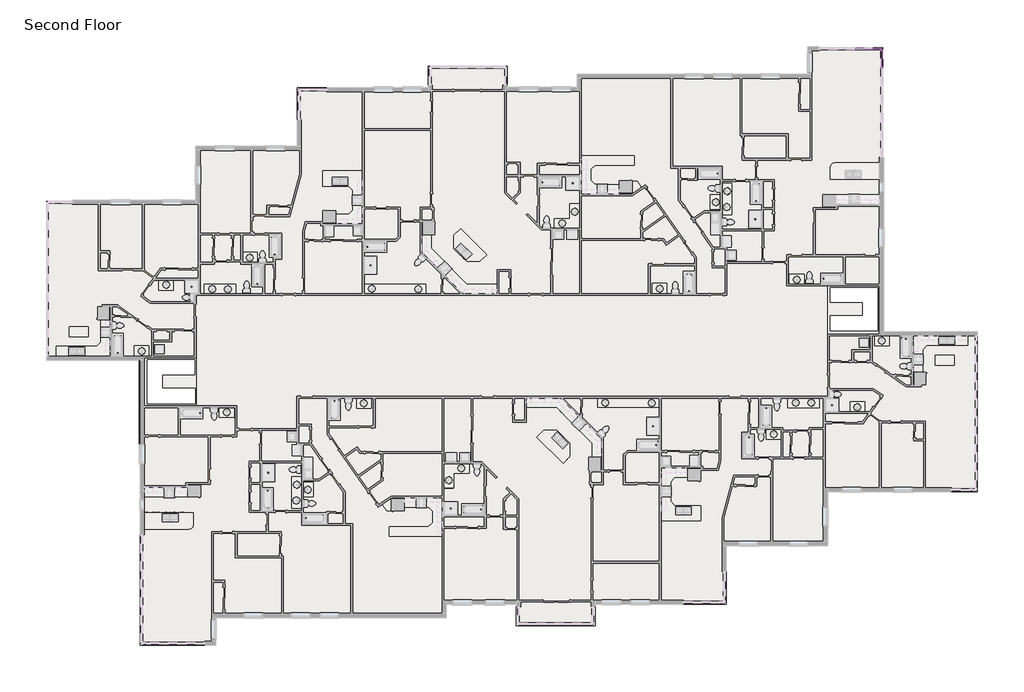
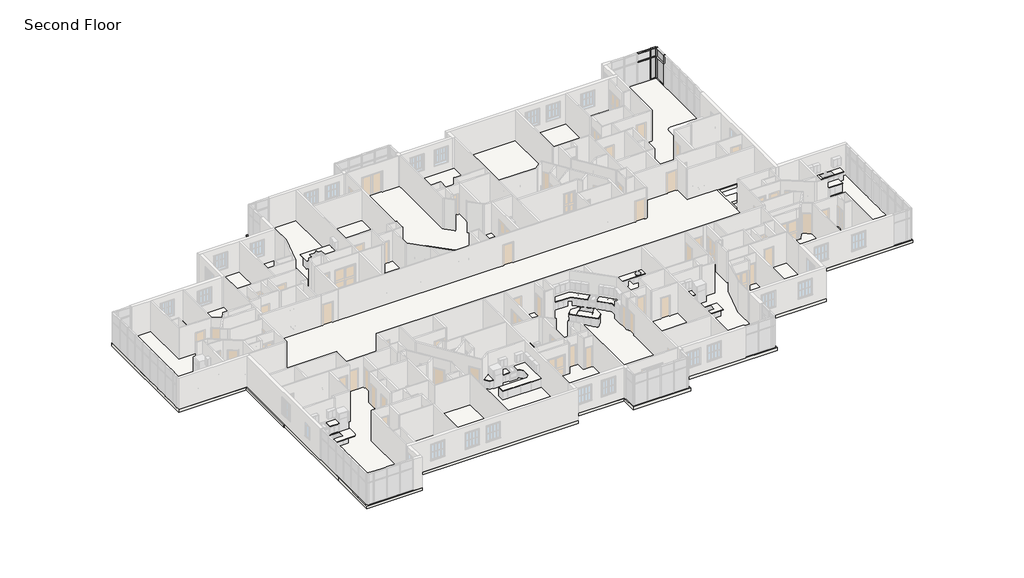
# One storey, part 13 of 17: 39 slabs, 13 members, 4 plates, 1 covering.
"""IFC4 building model written with IfcOpenShell, lengths in millimetres."""

from ifc_helpers import new_model, si_unit, point, frame, frame_2d, origin, place, context, project, spatial, polyline, circle_curve, trimmed, segment, composite_curve, outline, extrude, transform, mapped, element, save
from components import rectangular_mullion_rectangular_mullion_1_c1bf3533, rectangular_mullion_rectangular_mullion_1_fa3625a1, rectangular_mullion_rectangular_mullion_1_a50b3cda, rectangular_mullion_rectangular_mullion_1_5cd4c5ac, rectangular_mullion_rectangular_mullion_1_7cbf0b94, rectangular_mullion_rectangular_mullion_1_1da01dff, rectangular_mullion_rectangular_mullion_1_6186cc23, rectangular_mullion_rectangular_mullion_1_049a2e78, system_panel_glazed_53e6f9fb, system_panel_glazed_0e039939, system_panel_glazed_cb820e14, system_panel_glazed_5b288161

model = new_model("IFC4")

# Units and contexts
model_context = context("Model", 3, world=origin())
ifc_project = project(units=[si_unit("LENGTHUNIT", "METRE", prefix="MILLI")], contexts=[model_context])

# Site, building, storey
site = spatial("IfcSite", under=ifc_project)
building = spatial("IfcBuilding", under=site)
storey = spatial("IfcBuildingStorey", under=building, Name="Second Floor", Elevation=3048.0)

# Covering
placement = place(None, origin())
element("IfcCovering", 1, ObjectType="GWB on Furring", at=placement, inside=storey, context=model_context, shape_type="SweptSolid", body=[
    extrude(outline(polyline([(612.3831159, 8571.3427849), (10823.1831159, 8571.3427849), (10823.1831159, 12228.9427849), (17678.8246608, 12228.9427849), (17678.8246608, 16206.4791823), (26561.7198571, 16206.4791823), (26561.7198571, 17658.2365339), (31636.4923474, 17658.2365339), (31636.4923474, 16286.6365339), (36665.6923474, 16286.6365339), (36665.6923474, 17048.6365339), (52298.3534229, 17048.6365339), (52298.3534229, 18983.9169819), (57200.5534229, 18983.9169819), (57200.5534229, -370.8512558), (63577.7712704, -370.8512558), (63577.7712704, -10909.4129097), (53368.0217107, -10909.4129097), (53368.0217107, -14589.2379097), (46452.5922255, -14589.2379097), (46452.5922255, -18527.8691587), (37601.4470292, -18527.8691587), (37601.4470292, -20097.9066587), (32579.8565643, -20097.9066587), (32579.8565643, -18477.0691587), (27605.5115862, -18477.0691587), (27605.5115862, -19494.2615506), (11891.8009633, -19494.2615506), (11891.8009633, -21333.0996067), (7087.7956159, -21333.0996067), (7087.7956159, -1965.631369), (612.3831159, -1965.631369), (612.3831159, 8571.3427849)]), holes=[polyline([(7156.0581159, -5294.5871067), (10683.583999, -5294.5871067), (10683.583999, -1902.131369), (7156.0581159, -1902.131369), (7156.0581159, -5294.5871067)]), polyline([(53506.5703872, 2888.2544819), (53506.5703872, -370.8512558), (57019.8087704, -370.8512558), (57019.8087704, 2888.2544819), (53506.5703872, 2888.2544819)])]), frame((0.0, 0.0, 3048.0), z_axis=(0.0, 0.0, 1.0), x_axis=(1.0, 0.0, 0.0)), (0.0, 0.0, 1.0), 31.75),
])

# Members
rectangular_mullion_rectangular_mullion_1_shape = rectangular_mullion_rectangular_mullion_1_c1bf3533(model_context)
element("IfcMember", 2, ObjectType="Rectangular Mullion : Rectangular Mullion 1", at=placement, inside=storey, context=model_context, shape_type="MappedRepresentation", body=[
    mapped(rectangular_mullion_rectangular_mullion_1_shape, transform((57092.6034229, 18983.9169819, 6096.0), x_axis=(0.0, 0.0, 1.0), y_axis=(0.0, -1.0, 0.0), z_axis=(1.0, 0.0, 0.0))),
])
rectangular_mullion_rectangular_mullion_1_2_shape = rectangular_mullion_rectangular_mullion_1_fa3625a1(model_context)
element("IfcMember", 3, ObjectType="Rectangular Mullion : Rectangular Mullion 1", at=placement, inside=storey, context=model_context, shape_type="MappedRepresentation", body=[
    mapped(rectangular_mullion_rectangular_mullion_1_2_shape, transform((56571.9034233, 18983.9169819, 6096.0), x_axis=(0.0, 0.0, 1.0), y_axis=(0.0, -1.0, 0.0), z_axis=(1.0, 0.0, 0.0))),
])
element("IfcMember", 4, ObjectType="Rectangular Mullion : Rectangular Mullion 1", at=placement, inside=storey, context=model_context, shape_type="MappedRepresentation", body=[
    mapped(rectangular_mullion_rectangular_mullion_1_2_shape, transform((57175.1534229, 18875.9669819, 3048.0), x_axis=(0.0, 0.0, -1.0), y_axis=(-1.0, 0.0, 0.0), z_axis=(0.0, 1.0, 0.0))),
])
element("IfcMember", 5, ObjectType="Rectangular Mullion : Rectangular Mullion 1", at=placement, inside=storey, context=model_context, shape_type="MappedRepresentation", body=[
    mapped(rectangular_mullion_rectangular_mullion_1_shape, transform((56635.4034233, 18983.9169819, 3048.0), x_axis=(0.0, 0.0, -1.0), y_axis=(0.0, -1.0, 0.0), z_axis=(-1.0, 0.0, 0.0))),
])
rectangular_mullion_rectangular_mullion_1_3_shape = rectangular_mullion_rectangular_mullion_1_a50b3cda(model_context)
element("IfcMember", 6, ObjectType="Rectangular Mullion : Rectangular Mullion 1", at=placement, inside=storey, context=model_context, shape_type="MappedRepresentation", body=[
    mapped(rectangular_mullion_rectangular_mullion_1_3_shape, transform((57156.1034229, 18983.9169819, 3048.0), x_axis=(1.0, 0.0, 0.0), y_axis=(0.0, -1.0, 0.0), z_axis=(0.0, 0.0, -1.0))),
])
rectangular_mullion_rectangular_mullion_1_4_shape = rectangular_mullion_rectangular_mullion_1_5cd4c5ac(model_context)
element("IfcMember", 7, ObjectType="Rectangular Mullion : Rectangular Mullion 1", at=placement, inside=storey, context=model_context, shape_type="MappedRepresentation", body=[
    mapped(rectangular_mullion_rectangular_mullion_1_4_shape, transform((57156.1034229, 18983.9169819, 5213.35), x_axis=(1.0, 0.0, 0.0), y_axis=(0.0, -1.0, 0.0), z_axis=(0.0, 0.0, -1.0))),
])
element("IfcMember", 8, ObjectType="Rectangular Mullion : Rectangular Mullion 1", at=placement, inside=storey, context=model_context, shape_type="MappedRepresentation", body=[
    mapped(rectangular_mullion_rectangular_mullion_1_4_shape, transform((57175.1534229, 18939.4669819, 6096.0), x_axis=(0.0, 1.0, 0.0), y_axis=(-1.0, 0.0, 0.0), z_axis=(0.0, 0.0, 1.0))),
])
element("IfcMember", 9, ObjectType="Rectangular Mullion : Rectangular Mullion 1", at=placement, inside=storey, context=model_context, shape_type="MappedRepresentation", body=[
    mapped(rectangular_mullion_rectangular_mullion_1_3_shape, transform((57175.1534229, 18939.4669819, 5213.35), x_axis=(0.0, 1.0, 0.0), y_axis=(-1.0, 0.0, 0.0), z_axis=(0.0, 0.0, 1.0))),
])
rectangular_mullion_rectangular_mullion_1_5_shape = rectangular_mullion_rectangular_mullion_1_7cbf0b94(model_context)
element("IfcMember", 10, ObjectType="Rectangular Mullion : Rectangular Mullion 1", at=placement, inside=storey, context=model_context, shape_type="MappedRepresentation", body=[
    mapped(rectangular_mullion_rectangular_mullion_1_5_shape, transform((56571.9034233, 18983.9169819, 5213.35), x_axis=(0.0, 0.0, 1.0), y_axis=(0.0, -1.0, 0.0), z_axis=(1.0, 0.0, 0.0))),
])
rectangular_mullion_rectangular_mullion_1_6_shape = rectangular_mullion_rectangular_mullion_1_1da01dff(model_context)
element("IfcMember", 11, ObjectType="Rectangular Mullion : Rectangular Mullion 1", at=placement, inside=storey, context=model_context, shape_type="MappedRepresentation", body=[
    mapped(rectangular_mullion_rectangular_mullion_1_6_shape, transform((57092.6034229, 18983.9169819, 5213.35), x_axis=(0.0, 0.0, 1.0), y_axis=(0.0, -1.0, 0.0), z_axis=(1.0, 0.0, 0.0))),
])
rectangular_mullion_rectangular_mullion_1_7_shape = rectangular_mullion_rectangular_mullion_1_6186cc23(model_context)
element("IfcMember", 12, ObjectType="Rectangular Mullion : Rectangular Mullion 1", at=placement, inside=storey, context=model_context, shape_type="MappedRepresentation", body=[
    mapped(rectangular_mullion_rectangular_mullion_1_7_shape, transform((56603.6534233, 18983.9169819, 3048.0), x_axis=(1.0, 0.0, 0.0), y_axis=(0.0, -1.0, 0.0), z_axis=(0.0, 0.0, -1.0))),
])
rectangular_mullion_rectangular_mullion_1_8_shape = rectangular_mullion_rectangular_mullion_1_049a2e78(model_context)
element("IfcMember", 13, ObjectType="Rectangular Mullion : Rectangular Mullion 1", at=placement, inside=storey, context=model_context, shape_type="MappedRepresentation", body=[
    mapped(rectangular_mullion_rectangular_mullion_1_8_shape, transform((56603.6534233, 18983.9169819, 5213.35), x_axis=(1.0, 0.0, 0.0), y_axis=(0.0, -1.0, 0.0), z_axis=(0.0, 0.0, -1.0))),
])
element("IfcMember", 14, ObjectType="Rectangular Mullion : Rectangular Mullion 1", at=placement, inside=storey, context=model_context, shape_type="MappedRepresentation", body=[
    mapped(rectangular_mullion_rectangular_mullion_1_8_shape, transform((57175.1534229, 17688.5169816, 5213.35), x_axis=(0.0, -1.0, 0.0), y_axis=(-1.0, 0.0, 0.0), z_axis=(0.0, 0.0, -1.0))),
])

# Plates
system_panel_glazed_shape = system_panel_glazed_53e6f9fb(model_context)
element("IfcPlate", 15, ObjectType="System Panel : Glazed", at=placement, inside=storey, context=model_context, shape_type="MappedRepresentation", body=[
    mapped(system_panel_glazed_shape, transform((57175.1534229, 18298.1169818, 3111.5), x_axis=(0.0, -1.0, 0.0), y_axis=(1.0, 0.0, 0.0), z_axis=(0.0, 0.0, 1.0))),
])
system_panel_glazed_2_shape = system_panel_glazed_0e039939(model_context)
element("IfcPlate", 16, ObjectType="System Panel : Glazed", at=placement, inside=storey, context=model_context, shape_type="MappedRepresentation", body=[
    mapped(system_panel_glazed_2_shape, transform((56864.0034231, 18983.9169819, 3111.5), x_axis=(1.0, 0.0, 0.0), y_axis=(0.0, 1.0, 0.0), z_axis=(0.0, 0.0, 1.0))),
])
system_panel_glazed_3_shape = system_panel_glazed_cb820e14(model_context)
element("IfcPlate", 17, ObjectType="System Panel : Glazed", at=placement, inside=storey, context=model_context, shape_type="MappedRepresentation", body=[
    mapped(system_panel_glazed_3_shape, transform((57175.1534229, 18298.1169818, 5245.1), x_axis=(0.0, -1.0, 0.0), y_axis=(1.0, 0.0, 0.0), z_axis=(0.0, 0.0, 1.0))),
])
system_panel_glazed_4_shape = system_panel_glazed_5b288161(model_context)
element("IfcPlate", 18, ObjectType="System Panel : Glazed", at=placement, inside=storey, context=model_context, shape_type="MappedRepresentation", body=[
    mapped(system_panel_glazed_4_shape, transform((56864.0034231, 18983.9169819, 5245.1), x_axis=(1.0, 0.0, 0.0), y_axis=(0.0, 1.0, 0.0), z_axis=(0.0, 0.0, 1.0))),
])

# Slabs
element("IfcSlab", 19, ObjectType="Marble", at=placement, inside=storey, context=model_context, shape_type="SweptSolid", body=[
    extrude(outline(polyline([(50926.9744057, 3675.6544819), (51917.5744057, 3675.6544819), (51917.5744057, 3021.6044819), (50926.9744057, 3021.6044819), (50926.9744057, 3675.6544819)]), holes=[composite_curve([segment(trimmed(circle_curve(frame_2d((51422.2744057, 3320.0544819)), 203.2), [point((51219.0744057, 3320.0544819))], [point((51625.4744057, 3320.0544819))], True, "CARTESIAN"), True, "CONTINUOUS"), segment(trimmed(circle_curve(frame_2d((51422.2744057, 3320.0544819)), 203.2), [point((51625.4744057, 3320.0544819))], [point((51219.0744057, 3320.0544819))], True, "CARTESIAN"), True, "CONTINUOUS")], self_intersect=False)]), frame((0.0, 0.0, 3784.6), z_axis=(0.0, 0.0, 1.0), x_axis=(1.0, 0.0, 0.0)), (0.0, 0.0, 1.0), 38.1),
])
element("IfcSlab", 20, ObjectType="Marble", at=placement, inside=storey, context=model_context, shape_type="SweptSolid", body=[
    extrude(outline(polyline([(47019.1852525, 9841.9667096), (47019.1852525, 7708.3667096), (46371.4852525, 7708.3667096), (46371.4852525, 9841.9667096), (47019.1852525, 9841.9667096)]), holes=[composite_curve([segment(trimmed(circle_curve(frame_2d((46688.9852525, 8241.7667096)), 203.2), [point((46485.7852525, 8241.7667096))], [point((46892.1852525, 8241.7667096))], True, "CARTESIAN"), True, "CONTINUOUS"), segment(trimmed(circle_curve(frame_2d((46688.9852525, 8241.7667096)), 203.2), [point((46892.1852525, 8241.7667096))], [point((46485.7852525, 8241.7667096))], True, "CARTESIAN"), True, "CONTINUOUS")], self_intersect=False), composite_curve([segment(trimmed(circle_curve(frame_2d((46688.9852525, 9308.5667096)), 203.2), [point((46485.7852525, 9308.5667096))], [point((46892.1852525, 9308.5667096))], True, "CARTESIAN"), True, "CONTINUOUS"), segment(trimmed(circle_curve(frame_2d((46688.9852525, 9308.5667096)), 203.2), [point((46892.1852525, 9308.5667096))], [point((46485.7852525, 9308.5667096))], True, "CARTESIAN"), True, "CONTINUOUS")], self_intersect=False)]), frame((0.0, 0.0, 3784.6), z_axis=(0.0, 0.0, 1.0), x_axis=(1.0, 0.0, 0.0)), (0.0, 0.0, 1.0), 38.1),
])
element("IfcSlab", 21, ObjectType="Marble", at=placement, inside=storey, context=model_context, shape_type="SweptSolid", body=[
    extrude(outline(polyline([(37464.1178001, 10049.9225466), (37730.8178001, 9783.2225466), (37857.8178001, 9783.2225466), (37857.8178001, 9119.7410099), (36816.4178001, 9119.7410099), (36816.4178001, 11733.611548), (40399.3657184, 11733.611548), (40399.3657184, 11085.911548), (37746.5993369, 11085.911548), (37464.1178001, 10803.4300112), (37464.1178001, 10049.9225466)])), frame((0.0, 0.0, 3924.3), z_axis=(0.0, 0.0, 1.0), x_axis=(1.0, 0.0, 0.0)), (0.0, 0.0, 1.0), 38.1),
    extrude(outline(polyline([(39378.9347694, 9767.4410099), (39378.9347694, 9119.7410099), (38616.9347694, 9119.7410099), (38616.9347694, 9767.4410099), (39378.9347694, 9767.4410099)])), frame((0.0, 0.0, 3924.3), z_axis=(0.0, 0.0, 1.0), x_axis=(1.0, 0.0, 0.0)), (0.0, 0.0, 1.0), 38.1),
])
element("IfcSlab", 22, ObjectType="Marble", at=placement, inside=storey, context=model_context, shape_type="SweptSolid", body=[
    extrude(outline(polyline([(41626.0511183, 3064.2091714), (42616.6511183, 3064.2091714), (42616.6511183, 2391.1091714), (41626.0511183, 2391.1091714), (41626.0511183, 3064.2091714)]), holes=[composite_curve([segment(trimmed(circle_curve(frame_2d((42121.3511183, 2708.6091714)), 203.2), [point((41918.1511183, 2708.6091714))], [point((42324.5511183, 2708.6091714))], True, "CARTESIAN"), True, "CONTINUOUS"), segment(trimmed(circle_curve(frame_2d((42121.3511183, 2708.6091714)), 203.2), [point((42324.5511183, 2708.6091714))], [point((41918.1511183, 2708.6091714))], True, "CARTESIAN"), True, "CONTINUOUS")], self_intersect=False)]), frame((0.0, 0.0, 3784.6), z_axis=(0.0, 0.0, 1.0), x_axis=(1.0, 0.0, 0.0)), (0.0, 0.0, 1.0), 38.1),
])
element("IfcSlab", 23, ObjectType="Marble", at=placement, inside=storey, context=model_context, shape_type="SweptSolid", body=[
    extrude(outline(polyline([(34989.4572348, 6808.2918202), (34989.4572348, 7449.6418202), (36024.5072348, 7449.6418202), (36024.5072348, 8459.2918202), (36704.1794441, 8459.2918202), (36702.1178001, 6806.1559423), (34989.4572348, 6808.2918202)]), holes=[composite_curve([segment(trimmed(circle_curve(frame_2d((35526.0206512, 7126.8943672)), 203.2), [point((35729.2204932, 7126.6409544))], [point((35322.8208092, 7127.14778))], True, "CARTESIAN"), True, "CONTINUOUS"), segment(trimmed(circle_curve(frame_2d((35526.0206512, 7126.8943672)), 203.2), [point((35322.8208092, 7127.14778))], [point((35729.2204932, 7126.6409544))], True, "CARTESIAN"), True, "CONTINUOUS")], self_intersect=False), composite_curve([segment(trimmed(circle_curve(frame_2d((36367.6300654, 7922.506761)), 203.2), [point((36570.8299073, 7922.2533482))], [point((36164.4302234, 7922.7601737))], True, "CARTESIAN"), True, "CONTINUOUS"), segment(trimmed(circle_curve(frame_2d((36367.6300654, 7922.506761)), 203.2), [point((36164.4302234, 7922.7601737))], [point((36570.8299073, 7922.2533482))], True, "CARTESIAN"), True, "CONTINUOUS")], self_intersect=False)]), frame((0.0, 0.0, 3784.6), z_axis=(0.0, 0.0, 1.0), x_axis=(1.0, 0.0, 0.0)), (0.0, 0.0, 1.0), 38.1),
])
element("IfcSlab", 24, ObjectType="Marble", at=placement, inside=storey, context=model_context, shape_type="SweptSolid", body=[
    extrude(outline(polyline([(13837.7035557, 5166.0591714), (14828.3035557, 5166.0591714), (14828.3035557, 4492.9591714), (13837.7035557, 4492.9591714), (13837.7035557, 5166.0591714)]), holes=[composite_curve([segment(trimmed(circle_curve(frame_2d((14333.0035557, 4810.4591714)), 203.2), [point((14129.8035557, 4810.4591714))], [point((14536.2035557, 4810.4591714))], True, "CARTESIAN"), True, "CONTINUOUS"), segment(trimmed(circle_curve(frame_2d((14333.0035557, 4810.4591714)), 203.2), [point((14536.2035557, 4810.4591714))], [point((14129.8035557, 4810.4591714))], True, "CARTESIAN"), True, "CONTINUOUS")], self_intersect=False)]), frame((0.0, 0.0, 3784.6), z_axis=(0.0, 0.0, 1.0), x_axis=(1.0, 0.0, 0.0)), (0.0, 0.0, 1.0), 38.1),
])
element("IfcSlab", 25, ObjectType="Marble", at=placement, inside=storey, context=model_context, shape_type="SweptSolid", body=[
    extrude(outline(polyline([(6504.0261708, -1173.468869), (7494.6261708, -1173.468869), (7494.6261708, -1846.568869), (6504.0261708, -1846.568869), (6504.0261708, -1173.468869)]), holes=[composite_curve([segment(trimmed(circle_curve(frame_2d((6999.3261708, -1529.068869)), 203.2), [point((6796.1261708, -1529.068869))], [point((7202.5261708, -1529.068869))], True, "CARTESIAN"), True, "CONTINUOUS"), segment(trimmed(circle_curve(frame_2d((6999.3261708, -1529.068869)), 203.2), [point((7202.5261708, -1529.068869))], [point((6796.1261708, -1529.068869))], True, "CARTESIAN"), True, "CONTINUOUS")], self_intersect=False)]), frame((0.0, 0.0, 3784.6), z_axis=(0.0, 0.0, 1.0), x_axis=(1.0, 0.0, 0.0)), (0.0, 0.0, 1.0), 38.1),
])
element("IfcSlab", 26, ObjectType="Marble", at=placement, inside=storey, context=model_context, shape_type="SweptSolid", body=[
    extrude(outline(polyline([(9152.6629179, 2616.3624849), (8162.0629179, 2616.3624849), (8162.0629179, 3289.4624849), (9152.6629179, 3289.4624849), (9152.6629179, 2616.3624849)]), holes=[composite_curve([segment(trimmed(circle_curve(frame_2d((8657.3629179, 2971.9624849)), 203.2), [point((8860.5629179, 2971.9624849))], [point((8454.1629179, 2971.9624849))], True, "CARTESIAN"), True, "CONTINUOUS"), segment(trimmed(circle_curve(frame_2d((8657.3629179, 2971.9624849)), 203.2), [point((8454.1629179, 2971.9624849))], [point((8860.5629179, 2971.9624849))], True, "CARTESIAN"), True, "CONTINUOUS")], self_intersect=False)]), frame((0.0, 0.0, 3784.6), z_axis=(0.0, 0.0, 1.0), x_axis=(1.0, 0.0, 0.0)), (0.0, 0.0, 1.0), 38.1),
])
element("IfcSlab", 27, ObjectType="Marble", at=placement, inside=storey, context=model_context, shape_type="SweptSolid", body=[
    extrude(outline(polyline([(11250.0391694, 3007.0591714), (13383.6391694, 3007.0591714), (13383.6391694, 2359.3591714), (11250.0391694, 2359.3591714), (11250.0391694, 3007.0591714)]), holes=[composite_curve([segment(trimmed(circle_curve(frame_2d((12850.2391694, 2676.8591714)), 203.2), [point((12850.2391694, 2473.6591714))], [point((12850.2391694, 2880.0591714))], True, "CARTESIAN"), True, "CONTINUOUS"), segment(trimmed(circle_curve(frame_2d((12850.2391694, 2676.8591714)), 203.2), [point((12850.2391694, 2880.0591714))], [point((12850.2391694, 2473.6591714))], True, "CARTESIAN"), True, "CONTINUOUS")], self_intersect=False), composite_curve([segment(trimmed(circle_curve(frame_2d((11783.4391694, 2676.8591714)), 203.2), [point((11783.4391694, 2473.6591714))], [point((11783.4391694, 2880.0591714))], True, "CARTESIAN"), True, "CONTINUOUS"), segment(trimmed(circle_curve(frame_2d((11783.4391694, 2676.8591714)), 203.2), [point((11783.4391694, 2880.0591714))], [point((11783.4391694, 2473.6591714))], True, "CARTESIAN"), True, "CONTINUOUS")], self_intersect=False)]), frame((0.0, 0.0, 3784.6), z_axis=(0.0, 0.0, 1.0), x_axis=(1.0, 0.0, 0.0)), (0.0, 0.0, 1.0), 38.1),
])
element("IfcSlab", 28, ObjectType="Marble", at=placement, inside=storey, context=model_context, shape_type="SweptSolid", body=[
    extrude(outline(polyline([(45565.0352525, 8075.3578219), (45565.0352525, 9065.9578219), (46238.1352525, 9065.9578219), (46238.1352525, 8075.3578219), (45565.0352525, 8075.3578219)]), holes=[composite_curve([segment(trimmed(circle_curve(frame_2d((45920.6352525, 8570.6578219)), 203.2), [point((45920.6352525, 8367.4578219))], [point((45920.6352525, 8773.8578219))], True, "CARTESIAN"), True, "CONTINUOUS"), segment(trimmed(circle_curve(frame_2d((45920.6352525, 8570.6578219)), 203.2), [point((45920.6352525, 8773.8578219))], [point((45920.6352525, 8367.4578219))], True, "CARTESIAN"), True, "CONTINUOUS")], self_intersect=False)]), frame((0.0, 0.0, 3784.6), z_axis=(0.0, 0.0, 1.0), x_axis=(1.0, 0.0, 0.0)), (0.0, 0.0, 1.0), 38.1),
])
element("IfcSlab", 29, ObjectType="Marble", at=placement, inside=storey, context=model_context, shape_type="SweptSolid", body=[
    extrude(outline(polyline([(22080.2073571, 2360.472146), (22080.2073571, 2998.7524338), (26255.1289848, 2998.7524338), (26254.3264865, 2355.2665559), (22080.2073571, 2360.472146)]), holes=[composite_curve([segment(trimmed(circle_curve(frame_2d((25745.6467357, 2687.6122399)), 203.2), [point((25948.8465777, 2687.3588271))], [point((25542.4468937, 2687.8656527))], True, "CARTESIAN"), True, "CONTINUOUS"), segment(trimmed(circle_curve(frame_2d((25745.6467357, 2687.6122399)), 203.2), [point((25542.4468937, 2687.8656527))], [point((25948.8465777, 2687.3588271))], True, "CARTESIAN"), True, "CONTINUOUS")], self_intersect=False), composite_curve([segment(trimmed(circle_curve(frame_2d((22592.5961675, 2688.7367665)), 203.2), [point((22795.7960094, 2688.4833537))], [point((22389.3963255, 2688.9901793))], True, "CARTESIAN"), True, "CONTINUOUS"), segment(trimmed(circle_curve(frame_2d((22592.5961675, 2688.7367665)), 203.2), [point((22389.3963255, 2688.9901793))], [point((22795.7960094, 2688.4833537))], True, "CARTESIAN"), True, "CONTINUOUS")], self_intersect=False)]), frame((0.0, 0.0, 3784.6), z_axis=(0.0, 0.0, 1.0), x_axis=(1.0, 0.0, 0.0)), (0.0, 0.0, 1.0), 38.1),
])
element("IfcSlab", 30, ObjectType="Marble", at=placement, inside=storey, context=model_context, shape_type="SweptSolid", body=[
    extrude(outline(polyline([(28783.4392197, 2359.3591714), (27570.5233749, 3572.2750163), (28024.026309, 4025.7779504), (29049.0950879, 3000.7091714), (31107.0576897, 3000.7091714), (31107.0576897, 2359.3591714), (28783.4392197, 2359.3591714)])), frame((0.0, 0.0, 3924.3), z_axis=(0.0, 0.0, 1.0), x_axis=(1.0, 0.0, 0.0)), (0.0, 0.0, 1.0), 38.1),
])
element("IfcSlab", 31, ObjectType="Marble", at=placement, inside=storey, context=model_context, shape_type="SweptSolid", body=[
    extrude(outline(polyline([(28155.1545559, 6318.8980734), (28617.9568497, 6781.7003672), (30387.0673056, 5012.5899114), (29924.2650118, 4549.7876175), (29035.8578629, 4549.7876175), (28155.1545559, 5430.4909246), (28155.1545559, 6318.8980734)]), holes=[polyline([(28270.4282732, 5414.0000246), (29020.2863832, 4664.1419146), (29396.3907891, 5040.2463205), (28646.532679, 5790.1044305), (28270.4282732, 5414.0000246)])]), frame((0.0, 0.0, 3924.3), z_axis=(0.0, 0.0, 1.0), x_axis=(1.0, 0.0, 0.0)), (0.0, 0.0, 1.0), 38.1),
])
element("IfcSlab", 32, ObjectType="Marble", at=placement, inside=storey, context=model_context, shape_type="SweptSolid", body=[
    extrude(outline(polyline([(25998.6143708, 5154.0887964), (25998.6143708, 6373.2887964), (26639.9643708, 6373.2887964), (26639.9643708, 5431.1290346), (27499.5191999, 4571.5742055), (27040.3240808, 4112.3790864), (25998.6143708, 5154.0887964)])), frame((0.0, 0.0, 3924.3), z_axis=(0.0, 0.0, 1.0), x_axis=(1.0, 0.0, 0.0)), (0.0, 0.0, 1.0), 38.1),
])
element("IfcSlab", 33, ObjectType="Marble", at=placement, inside=storey, context=model_context, shape_type="SweptSolid", body=[
    extrude(outline(polyline([(2093.0864714, 129.9694727), (3375.7864714, 129.9694727), (3375.7864714, -543.1305273), (2093.0864714, -543.1305273), (2093.0864714, 129.9694727)])), frame((0.0, 0.0, 3924.3), z_axis=(0.0, 0.0, 1.0), x_axis=(1.0, 0.0, 0.0)), (0.0, 0.0, 1.0), 38.1),
])
element("IfcSlab", 34, ObjectType="Marble", at=placement, inside=storey, context=model_context, shape_type="SweptSolid", body=[
    extrude(outline(polyline([(4880.7003923, -1846.568869), (1191.3503923, -1846.568869), (1191.3503923, -1205.218869), (3957.3264687, -1205.218869), (4239.3503923, -923.1949454), (4239.3503923, -631.546226), (4880.7003923, -631.546226), (4880.7003923, -1846.568869)]), holes=[polyline([(3128.1003923, -1808.468869), (3128.1003923, -1275.068869), (2061.3003923, -1275.068869), (2061.3003923, -1808.468869), (3128.1003923, -1808.468869)])]), frame((0.0, 0.0, 3924.3), z_axis=(0.0, 0.0, 1.0), x_axis=(1.0, 0.0, 0.0)), (0.0, 0.0, 1.0), 38.1),
    extrude(outline(polyline([(4239.3503923, 131.5202225), (4239.3503923, 598.1185137), (4880.7003923, 598.1185137), (4880.7003923, 131.5202225), (4239.3503923, 131.5202225)])), frame((0.0, 0.0, 3924.3), z_axis=(0.0, 0.0, 1.0), x_axis=(1.0, 0.0, 0.0)), (0.0, 0.0, 1.0), 38.1),
])
element("IfcSlab", 35, ObjectType="Marble", at=placement, inside=storey, context=model_context, shape_type="SweptSolid", body=[
    extrude(outline(polyline([(20158.6042781, 7744.555075), (21038.3560765, 7744.555075), (21324.5573571, 8030.7563556), (21324.5573571, 8322.405075), (21972.2573571, 8322.405075), (21972.2573571, 7103.205075), (20158.6042781, 7103.205075), (20158.6042781, 7744.555075)])), frame((0.0, 0.0, 3924.3), z_axis=(0.0, 0.0, 1.0), x_axis=(1.0, 0.0, 0.0)), (0.0, 0.0, 1.0), 38.1),
    extrude(outline(polyline([(21044.7060765, 9655.905075), (19273.5073571, 9655.905075), (19273.5073571, 10697.0239484), (21972.2573571, 10697.0239484), (21972.2573571, 9084.405075), (21324.5573571, 9084.405075), (21324.5573571, 9376.0537944), (21044.7060765, 9655.905075)]), holes=[polyline([(20987.7427245, 10265.2239484), (19916.8560751, 10265.2239484), (19916.8560751, 9732.105075), (20987.7427245, 9732.105075), (20987.7427245, 10265.2239484)])]), frame((0.0, 0.0, 3924.3), z_axis=(0.0, 0.0, 1.0), x_axis=(1.0, 0.0, 0.0)), (0.0, 0.0, 1.0), 38.1),
])
element("IfcSlab", 36, ObjectType="Marble", at=placement, inside=storey, context=model_context, shape_type="SweptSolid", body=[
    extrude(outline(polyline([(40262.8543604, 10000.5110724), (40587.2272521, 10000.5110724), (40887.9989359, 9570.9645917), (40262.8543604, 9133.2336474), (40262.8543604, 10000.5110724)])), frame((0.0, 0.0, 3924.3), z_axis=(0.0, 0.0, 1.0), x_axis=(1.0, 0.0, 0.0)), (0.0, 0.0, 1.0), 38.1),
])
element("IfcSlab", 37, ObjectType="Marble", at=placement, inside=storey, context=model_context, shape_type="SweptSolid", body=[
    extrude(outline(composite_curve([segment(polyline([(7170.3456159, -12486.5347765), (10488.6061289, -12486.5347765), (10488.6061289, -13305.0808673)]), True, "CONTINUOUS"), segment(trimmed(circle_curve(frame_2d((10183.8061289, -13305.0808673)), 304.8), [point((10488.6061289, -13305.0808673))], [point((10180.1154029, -13609.8585216))], False, "CARTESIAN"), True, "CONTINUOUS"), segment(polyline([(10180.1154029, -13609.8585216), (7170.3456159, -13609.8585216), (7170.3456159, -12486.5347765)]), True, "CONTINUOUS")], self_intersect=False), holes=[polyline([(9469.7910491, -13082.6391551), (9469.7910491, -12555.3066357), (8402.0211605, -12555.3066357), (8402.0211605, -13082.6391551), (9469.7910491, -13082.6391551)])]), frame((0.0, 0.0, 3924.3), z_axis=(0.0, 0.0, 1.0), x_axis=(1.0, 0.0, 0.0)), (0.0, 0.0, 1.0), 38.1),
])
element("IfcSlab", 38, ObjectType="Marble", at=placement, inside=storey, context=model_context, shape_type="SweptSolid", body=[
    extrude(outline(polyline([(10127.0683728, -11419.8368662), (9246.0058728, -11419.8368662), (9246.0058728, -10794.1493344), (10127.0683728, -10794.1493344), (10127.0683728, -11419.8368662)])), frame((0.0, 0.0, 3924.3), z_axis=(0.0, 0.0, 1.0), x_axis=(1.0, 0.0, 0.0)), (0.0, 0.0, 1.0), 38.1),
    extrude(outline(polyline([(8484.0058728, -11419.8368662), (7175.9058728, -11419.8368662), (7175.9058728, -10772.1368662), (8484.0058728, -10772.1368662), (8484.0058728, -11419.8368662)])), frame((0.0, 0.0, 3924.3), z_axis=(0.0, 0.0, 1.0), x_axis=(1.0, 0.0, 0.0)), (0.0, 0.0, 1.0), 38.1),
])
element("IfcSlab", 39, ObjectType="Marble", at=placement, inside=storey, context=model_context, shape_type="SweptSolid", body=[
    extrude(outline(polyline([(13263.1799806, -6024.8371067), (12272.5799806, -6024.8371067), (12272.5799806, -5370.7871067), (13263.1799806, -5370.7871067), (13263.1799806, -6024.8371067)]), holes=[composite_curve([segment(trimmed(circle_curve(frame_2d((12767.8799806, -5669.2371067)), 203.2), [point((12971.0799806, -5669.2371067))], [point((12564.6799806, -5669.2371067))], True, "CARTESIAN"), True, "CONTINUOUS"), segment(trimmed(circle_curve(frame_2d((12767.8799806, -5669.2371067)), 203.2), [point((12564.6799806, -5669.2371067))], [point((12971.0799806, -5669.2371067))], True, "CARTESIAN"), True, "CONTINUOUS")], self_intersect=False)]), frame((0.0, 0.0, 3784.6), z_axis=(0.0, 0.0, 1.0), x_axis=(1.0, 0.0, 0.0)), (0.0, 0.0, 1.0), 38.1),
])
element("IfcSlab", 40, ObjectType="Marble", at=placement, inside=storey, context=model_context, shape_type="SweptSolid", body=[
    extrude(outline(polyline([(17170.9691338, -12191.1493344), (17170.9691338, -10057.5493344), (17818.6691338, -10057.5493344), (17818.6691338, -12191.1493344), (17170.9691338, -12191.1493344)]), holes=[composite_curve([segment(trimmed(circle_curve(frame_2d((17501.1691338, -10590.9493344)), 203.2), [point((17704.3691338, -10590.9493344))], [point((17297.9691338, -10590.9493344))], True, "CARTESIAN"), True, "CONTINUOUS"), segment(trimmed(circle_curve(frame_2d((17501.1691338, -10590.9493344)), 203.2), [point((17297.9691338, -10590.9493344))], [point((17704.3691338, -10590.9493344))], True, "CARTESIAN"), True, "CONTINUOUS")], self_intersect=False), composite_curve([segment(trimmed(circle_curve(frame_2d((17501.1691338, -11657.7493344)), 203.2), [point((17704.3691338, -11657.7493344))], [point((17297.9691338, -11657.7493344))], True, "CARTESIAN"), True, "CONTINUOUS"), segment(trimmed(circle_curve(frame_2d((17501.1691338, -11657.7493344)), 203.2), [point((17297.9691338, -11657.7493344))], [point((17704.3691338, -11657.7493344))], True, "CARTESIAN"), True, "CONTINUOUS")], self_intersect=False)]), frame((0.0, 0.0, 3784.6), z_axis=(0.0, 0.0, 1.0), x_axis=(1.0, 0.0, 0.0)), (0.0, 0.0, 1.0), 38.1),
])
element("IfcSlab", 41, ObjectType="Marble", at=placement, inside=storey, context=model_context, shape_type="SweptSolid", body=[
    extrude(outline(polyline([(26726.0365862, -12399.1051714), (26459.3365862, -12132.4051714), (26332.3365862, -12132.4051714), (26332.3365862, -11468.9236347), (27373.7365862, -11468.9236347), (27373.7365862, -14082.7941728), (23790.7886679, -14082.7941728), (23790.7886679, -13435.0941728), (26443.5550494, -13435.0941728), (26726.0365862, -13152.6126361), (26726.0365862, -12399.1051714)])), frame((0.0, 0.0, 3924.3), z_axis=(0.0, 0.0, 1.0), x_axis=(1.0, 0.0, 0.0)), (0.0, 0.0, 1.0), 38.1),
    extrude(outline(polyline([(24811.2196169, -12116.6236347), (24811.2196169, -11468.9236347), (25573.2196169, -11468.9236347), (25573.2196169, -12116.6236347), (24811.2196169, -12116.6236347)])), frame((0.0, 0.0, 3924.3), z_axis=(0.0, 0.0, 1.0), x_axis=(1.0, 0.0, 0.0)), (0.0, 0.0, 1.0), 38.1),
])
element("IfcSlab", 42, ObjectType="Marble", at=placement, inside=storey, context=model_context, shape_type="SweptSolid", body=[
    extrude(outline(polyline([(22564.103268, -5413.3917963), (21573.503268, -5413.3917963), (21573.503268, -4740.2917963), (22564.103268, -4740.2917963), (22564.103268, -5413.3917963)]), holes=[composite_curve([segment(trimmed(circle_curve(frame_2d((22068.803268, -5057.7917963)), 203.2), [point((22272.003268, -5057.7917963))], [point((21865.603268, -5057.7917963))], True, "CARTESIAN"), True, "CONTINUOUS"), segment(trimmed(circle_curve(frame_2d((22068.803268, -5057.7917963)), 203.2), [point((21865.603268, -5057.7917963))], [point((22272.003268, -5057.7917963))], True, "CARTESIAN"), True, "CONTINUOUS")], self_intersect=False)]), frame((0.0, 0.0, 3784.6), z_axis=(0.0, 0.0, 1.0), x_axis=(1.0, 0.0, 0.0)), (0.0, 0.0, 1.0), 38.1),
])
element("IfcSlab", 43, ObjectType="Marble", at=placement, inside=storey, context=model_context, shape_type="SweptSolid", body=[
    extrude(outline(polyline([(29200.6971515, -9157.474445), (29200.6971515, -9798.824445), (28165.6471515, -9798.824445), (28165.6471515, -10808.474445), (27485.9749422, -10808.474445), (27488.0365862, -9155.3385671), (29200.6971515, -9157.474445)]), holes=[composite_curve([segment(trimmed(circle_curve(frame_2d((28664.1337351, -9476.076992)), 203.2), [point((28460.9338931, -9475.8235793))], [point((28867.3335771, -9476.3304048))], True, "CARTESIAN"), True, "CONTINUOUS"), segment(trimmed(circle_curve(frame_2d((28664.1337351, -9476.076992)), 203.2), [point((28867.3335771, -9476.3304048))], [point((28460.9338931, -9475.8235793))], True, "CARTESIAN"), True, "CONTINUOUS")], self_intersect=False), composite_curve([segment(trimmed(circle_curve(frame_2d((27822.5243209, -10271.6893858)), 203.2), [point((27619.324479, -10271.435973))], [point((28025.7241629, -10271.9427985))], True, "CARTESIAN"), True, "CONTINUOUS"), segment(trimmed(circle_curve(frame_2d((27822.5243209, -10271.6893858)), 203.2), [point((28025.7241629, -10271.9427985))], [point((27619.324479, -10271.435973))], True, "CARTESIAN"), True, "CONTINUOUS")], self_intersect=False)]), frame((0.0, 0.0, 3784.6), z_axis=(0.0, 0.0, 1.0), x_axis=(1.0, 0.0, 0.0)), (0.0, 0.0, 1.0), 38.1),
])
element("IfcSlab", 44, ObjectType="Marble", at=placement, inside=storey, context=model_context, shape_type="SweptSolid", body=[
    extrude(outline(polyline([(50352.4508306, -7515.2417963), (49361.8508306, -7515.2417963), (49361.8508306, -6842.1417963), (50352.4508306, -6842.1417963), (50352.4508306, -7515.2417963)]), holes=[composite_curve([segment(trimmed(circle_curve(frame_2d((49857.1508306, -7159.6417963)), 203.2), [point((50060.3508306, -7159.6417963))], [point((49653.9508306, -7159.6417963))], True, "CARTESIAN"), True, "CONTINUOUS"), segment(trimmed(circle_curve(frame_2d((49857.1508306, -7159.6417963)), 203.2), [point((49653.9508306, -7159.6417963))], [point((50060.3508306, -7159.6417963))], True, "CARTESIAN"), True, "CONTINUOUS")], self_intersect=False)]), frame((0.0, 0.0, 3784.6), z_axis=(0.0, 0.0, 1.0), x_axis=(1.0, 0.0, 0.0)), (0.0, 0.0, 1.0), 38.1),
])
element("IfcSlab", 45, ObjectType="Marble", at=placement, inside=storey, context=model_context, shape_type="SweptSolid", body=[
    extrude(outline(polyline([(57686.1282154, -1175.7137558), (56695.5282154, -1175.7137558), (56695.5282154, -485.1512558), (57686.1282154, -485.1512558), (57686.1282154, -1175.7137558)]), holes=[composite_curve([segment(trimmed(circle_curve(frame_2d((57190.8282154, -820.1137558)), 203.2), [point((57394.0282154, -820.1137558))], [point((56987.6282154, -820.1137558))], True, "CARTESIAN"), True, "CONTINUOUS"), segment(trimmed(circle_curve(frame_2d((57190.8282154, -820.1137558)), 203.2), [point((56987.6282154, -820.1137558))], [point((57394.0282154, -820.1137558))], True, "CARTESIAN"), True, "CONTINUOUS")], self_intersect=False)]), frame((0.0, 0.0, 3784.6), z_axis=(0.0, 0.0, 1.0), x_axis=(1.0, 0.0, 0.0)), (0.0, 0.0, 1.0), 38.1),
])
element("IfcSlab", 46, ObjectType="Marble", at=placement, inside=storey, context=model_context, shape_type="SweptSolid", body=[
    extrude(outline(polyline([(55037.4914684, -4965.5451097), (56028.0914684, -4965.5451097), (56028.0914684, -5638.6451097), (55037.4914684, -5638.6451097), (55037.4914684, -4965.5451097)]), holes=[composite_curve([segment(trimmed(circle_curve(frame_2d((55532.7914684, -5321.1451097)), 203.2), [point((55329.5914684, -5321.1451097))], [point((55735.9914684, -5321.1451097))], True, "CARTESIAN"), True, "CONTINUOUS"), segment(trimmed(circle_curve(frame_2d((55532.7914684, -5321.1451097)), 203.2), [point((55735.9914684, -5321.1451097))], [point((55329.5914684, -5321.1451097))], True, "CARTESIAN"), True, "CONTINUOUS")], self_intersect=False)]), frame((0.0, 0.0, 3784.6), z_axis=(0.0, 0.0, 1.0), x_axis=(1.0, 0.0, 0.0)), (0.0, 0.0, 1.0), 38.1),
])
element("IfcSlab", 47, ObjectType="Marble", at=placement, inside=storey, context=model_context, shape_type="SweptSolid", body=[
    extrude(outline(polyline([(52940.1152169, -5356.2417963), (50806.5152169, -5356.2417963), (50806.5152169, -4708.5417963), (52940.1152169, -4708.5417963), (52940.1152169, -5356.2417963)]), holes=[composite_curve([segment(trimmed(circle_curve(frame_2d((51339.9152169, -5026.0417963)), 203.2), [point((51339.9152169, -4822.8417963))], [point((51339.9152169, -5229.2417963))], True, "CARTESIAN"), True, "CONTINUOUS"), segment(trimmed(circle_curve(frame_2d((51339.9152169, -5026.0417963)), 203.2), [point((51339.9152169, -5229.2417963))], [point((51339.9152169, -4822.8417963))], True, "CARTESIAN"), True, "CONTINUOUS")], self_intersect=False), composite_curve([segment(trimmed(circle_curve(frame_2d((52406.7152169, -5026.0417963)), 203.2), [point((52406.7152169, -4822.8417963))], [point((52406.7152169, -5229.2417963))], True, "CARTESIAN"), True, "CONTINUOUS"), segment(trimmed(circle_curve(frame_2d((52406.7152169, -5026.0417963)), 203.2), [point((52406.7152169, -5229.2417963))], [point((52406.7152169, -4822.8417963))], True, "CARTESIAN"), True, "CONTINUOUS")], self_intersect=False)]), frame((0.0, 0.0, 3784.6), z_axis=(0.0, 0.0, 1.0), x_axis=(1.0, 0.0, 0.0)), (0.0, 0.0, 1.0), 38.1),
])
element("IfcSlab", 48, ObjectType="Marble", at=placement, inside=storey, context=model_context, shape_type="SweptSolid", body=[
    extrude(outline(polyline([(18625.1191338, -10424.5404467), (18625.1191338, -11415.1404467), (17952.0191338, -11415.1404467), (17952.0191338, -10424.5404467), (18625.1191338, -10424.5404467)]), holes=[composite_curve([segment(trimmed(circle_curve(frame_2d((18269.5191338, -10919.8404467)), 203.2), [point((18269.5191338, -10716.6404467))], [point((18269.5191338, -11123.0404467))], True, "CARTESIAN"), True, "CONTINUOUS"), segment(trimmed(circle_curve(frame_2d((18269.5191338, -10919.8404467)), 203.2), [point((18269.5191338, -11123.0404467))], [point((18269.5191338, -10716.6404467))], True, "CARTESIAN"), True, "CONTINUOUS")], self_intersect=False)]), frame((0.0, 0.0, 3784.6), z_axis=(0.0, 0.0, 1.0), x_axis=(1.0, 0.0, 0.0)), (0.0, 0.0, 1.0), 38.1),
])
element("IfcSlab", 49, ObjectType="Marble", at=placement, inside=storey, context=model_context, shape_type="SweptSolid", body=[
    extrude(outline(polyline([(42109.9470292, -4709.6547708), (42109.9470292, -5347.9350586), (37935.0254015, -5347.9350586), (37935.8278998, -4704.4491807), (42109.9470292, -4709.6547708)]), holes=[composite_curve([segment(trimmed(circle_curve(frame_2d((38444.5076506, -5036.7948647)), 203.2), [point((38241.3078086, -5036.541452))], [point((38647.7074926, -5037.0482775))], True, "CARTESIAN"), True, "CONTINUOUS"), segment(trimmed(circle_curve(frame_2d((38444.5076506, -5036.7948647)), 203.2), [point((38647.7074926, -5037.0482775))], [point((38241.3078086, -5036.541452))], True, "CARTESIAN"), True, "CONTINUOUS")], self_intersect=False), composite_curve([segment(trimmed(circle_curve(frame_2d((41597.5582188, -5037.9193913)), 203.2), [point((41394.3583769, -5037.6659786))], [point((41800.7580608, -5038.1728041))], True, "CARTESIAN"), True, "CONTINUOUS"), segment(trimmed(circle_curve(frame_2d((41597.5582188, -5037.9193913)), 203.2), [point((41800.7580608, -5038.1728041))], [point((41394.3583769, -5037.6659786))], True, "CARTESIAN"), True, "CONTINUOUS")], self_intersect=False)]), frame((0.0, 0.0, 3784.6), z_axis=(0.0, 0.0, 1.0), x_axis=(1.0, 0.0, 0.0)), (0.0, 0.0, 1.0), 38.1),
])
element("IfcSlab", 50, ObjectType="Marble", at=placement, inside=storey, context=model_context, shape_type="SweptSolid", body=[
    extrude(outline(polyline([(35406.7151666, -4708.5417963), (36619.6310114, -5921.4576411), (36166.1280773, -6374.9605752), (35141.0592984, -5349.8917963), (33083.0966966, -5349.8917963), (33083.0966966, -4708.5417963), (35406.7151666, -4708.5417963)])), frame((0.0, 0.0, 3924.3), z_axis=(0.0, 0.0, 1.0), x_axis=(1.0, 0.0, 0.0)), (0.0, 0.0, 1.0), 38.1),
])
element("IfcSlab", 51, ObjectType="Marble", at=placement, inside=storey, context=model_context, shape_type="SweptSolid", body=[
    extrude(outline(polyline([(36034.9998304, -8668.0806982), (35572.1975365, -9130.882992), (33803.0870807, -7361.7725362), (34265.8893745, -6898.9702424), (35154.2965233, -6898.9702424), (36034.9998304, -7779.6735494), (36034.9998304, -8668.0806982)]), holes=[polyline([(35919.7261131, -7763.1826495), (35169.8680031, -7013.3245394), (34793.7635972, -7389.4289453), (35543.6217072, -8139.2870553), (35919.7261131, -7763.1826495)])]), frame((0.0, 0.0, 3924.3), z_axis=(0.0, 0.0, 1.0), x_axis=(1.0, 0.0, 0.0)), (0.0, 0.0, 1.0), 38.1),
])
element("IfcSlab", 52, ObjectType="Marble", at=placement, inside=storey, context=model_context, shape_type="SweptSolid", body=[
    extrude(outline(polyline([(38191.5400155, -7503.2714212), (38191.5400155, -8722.4714212), (37550.1900155, -8722.4714212), (37550.1900155, -7780.3116594), (36690.6351864, -6920.7568303), (37149.8303055, -6461.5617112), (38191.5400155, -7503.2714212)])), frame((0.0, 0.0, 3924.3), z_axis=(0.0, 0.0, 1.0), x_axis=(1.0, 0.0, 0.0)), (0.0, 0.0, 1.0), 38.1),
])
element("IfcSlab", 53, ObjectType="Marble", at=placement, inside=storey, context=model_context, shape_type="SweptSolid", body=[
    extrude(outline(polyline([(62097.0679149, -2479.1520975), (60814.3679149, -2479.1520975), (60814.3679149, -1806.0520975), (62097.0679149, -1806.0520975), (62097.0679149, -2479.1520975)])), frame((0.0, 0.0, 3924.3), z_axis=(0.0, 0.0, 1.0), x_axis=(1.0, 0.0, 0.0)), (0.0, 0.0, 1.0), 38.1),
])
element("IfcSlab", 54, ObjectType="Marble", at=placement, inside=storey, context=model_context, shape_type="SweptSolid", body=[
    extrude(outline(polyline([(59309.453994, -485.1512558), (62998.803994, -485.1512558), (62998.803994, -1143.9637558), (60232.8279176, -1143.9637558), (59950.803994, -1425.9876794), (59950.803994, -1717.6363988), (59309.453994, -1717.6363988), (59309.453994, -485.1512558)]), holes=[polyline([(61062.053994, -540.7137558), (61062.053994, -1074.1137558), (62128.853994, -1074.1137558), (62128.853994, -540.7137558), (61062.053994, -540.7137558)])]), frame((0.0, 0.0, 3924.3), z_axis=(0.0, 0.0, 1.0), x_axis=(1.0, 0.0, 0.0)), (0.0, 0.0, 1.0), 38.1),
    extrude(outline(polyline([(59950.803994, -2480.7028474), (59950.803994, -2947.3011385), (59309.453994, -2947.3011385), (59309.453994, -2480.7028474), (59950.803994, -2480.7028474)])), frame((0.0, 0.0, 3924.3), z_axis=(0.0, 0.0, 1.0), x_axis=(1.0, 0.0, 0.0)), (0.0, 0.0, 1.0), 38.1),
])
element("IfcSlab", 55, ObjectType="Marble", at=placement, inside=storey, context=model_context, shape_type="SweptSolid", body=[
    extrude(outline(polyline([(44031.5501082, -10093.7376998), (43151.7983098, -10093.7376998), (42865.5970292, -10379.9389804), (42865.5970292, -10671.5876998), (42217.8970292, -10671.5876998), (42217.8970292, -9452.3876998), (44031.5501082, -9452.3876998), (44031.5501082, -10093.7376998)])), frame((0.0, 0.0, 3924.3), z_axis=(0.0, 0.0, 1.0), x_axis=(1.0, 0.0, 0.0)), (0.0, 0.0, 1.0), 38.1),
    extrude(outline(polyline([(43145.4483098, -12005.0876998), (44916.6470292, -12005.0876998), (44916.6470292, -13046.2065732), (42217.8970292, -13046.2065732), (42217.8970292, -11433.5876998), (42865.5970292, -11433.5876998), (42865.5970292, -11725.2364192), (43145.4483098, -12005.0876998)]), holes=[polyline([(43202.4116618, -12614.4065732), (44273.2983112, -12614.4065732), (44273.2983112, -12081.2876998), (43202.4116618, -12081.2876998), (43202.4116618, -12614.4065732)])]), frame((0.0, 0.0, 3924.3), z_axis=(0.0, 0.0, 1.0), x_axis=(1.0, 0.0, 0.0)), (0.0, 0.0, 1.0), 38.1),
])
element("IfcSlab", 56, ObjectType="Marble", at=placement, inside=storey, context=model_context, shape_type="SweptSolid", body=[
    extrude(outline(polyline([(23927.3000259, -12349.6936972), (23602.9271341, -12349.6936972), (23302.1554503, -11920.1472165), (23927.3000259, -11482.4162723), (23927.3000259, -12349.6936972)])), frame((0.0, 0.0, 3924.3), z_axis=(0.0, 0.0, 1.0), x_axis=(1.0, 0.0, 0.0)), (0.0, 0.0, 1.0), 38.1),
])
element("IfcSlab", 57, ObjectType="Wood Joist 10\" - Wood Finish", at=placement, inside=storey, context=model_context, shape_type="SweptSolid", body=[
    extrude(outline(polyline([(6887.7706159, -21474.3871067), (6887.7706159, -16921.6996859), (6887.7706159, -8223.7871859), (6821.0956159, -8223.7871859), (6821.0956159, -2146.606369), (547.2956159, -2146.606369), (547.2956159, 8643.631131), (2288.7831159, 8643.631131), (2288.7831159, 8712.6302849), (10681.8956159, 8712.6302849), (10681.8956159, 12370.2302849), (17537.5371608, 12370.2302849), (17537.5371608, 16347.7666823), (26420.4323571, 16347.7666823), (26420.4323571, 17799.5240339), (31777.7798474, 17799.5240339), (31777.7798474, 16359.6615339), (36533.8428001, 16359.6615339), (36533.8428001, 17246.6789258), (52157.0659229, 17246.6789258), (52157.0659229, 19125.2044819), (52914.3034229, 19125.2044819), (52914.3034229, 19047.4169819), (57238.6534229, 19047.4169819), (57238.6534229, 11632.2044819), (57302.3837704, 11632.2044819), (57302.3837704, -202.5762558), (63673.0212704, -202.5762558), (63673.0212704, -3449.276335), (63673.0212704, -11061.8129097), (53508.2587704, -11061.8129097), (53508.2587704, -14719.4129097), (46652.6172255, -14719.4129097), (46652.6172255, -18696.9493072), (37769.7220292, -18696.9493072), (37769.7220292, -20148.7066587), (32412.3745389, -20148.7066587), (32412.3745389, -18708.8441587), (27656.3115862, -18708.8441587), (27656.3115862, -19595.8615506), (12033.0884633, -19595.8615506), (12033.0884633, -21474.3871067), (6887.7706159, -21474.3871067)]), holes=[polyline([(10607.383999, -2106.918869), (7360.8456159, -2106.918869), (7360.8456159, -5085.0371067), (10620.083999, -5085.0371067), (10620.083999, -4062.718869), (8397.583999, -4062.718869), (8397.583999, -3122.918869), (10607.383999, -3122.918869), (10607.383999, -2106.918869)]), polyline([(53698.8646836, -151.7762558), (56905.5087704, -151.7762558), (56905.5087704, 2761.2544819), (53698.8646836, 2761.2544819), (53698.8646836, 1770.6544819), (55883.2646836, 1770.6544819), (55883.2646836, 856.2544819), (53698.8646836, 856.2544819), (53698.8646836, -151.7762558)])]), frame((0.0, 0.0, 2774.95), z_axis=(0.0, 0.0, 1.0), x_axis=(1.0, 0.0, 0.0)), (0.0, 0.0, 1.0), 273.05),
])

save(model, "model.ifc")
